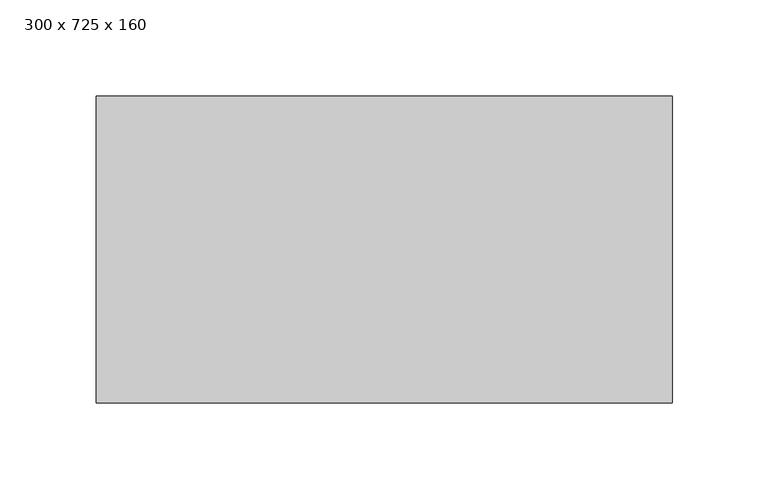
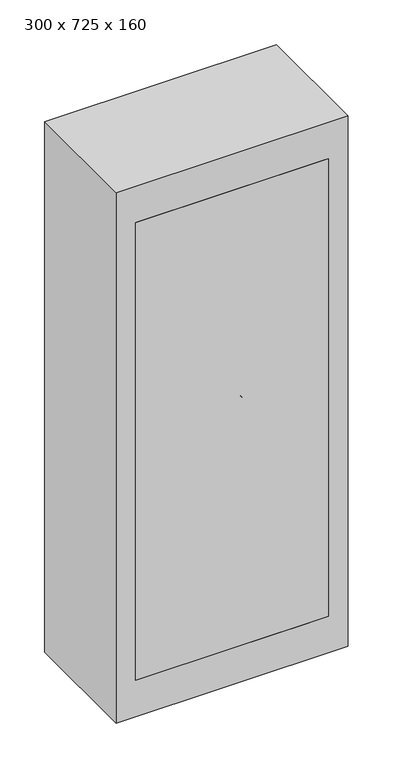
"""IFC4 building model written with IfcOpenShell, lengths in millimetres: furniture geometry, ME_UN_connection box double connection_ACO : 300 x 725 x 160."""

from ifc_helpers import new_model, si_unit, point, frame, frame_2d, origin, place, context, project, spatial, polyline, circle_curve, trimmed, segment, composite_curve, outline, extrude, source, transform, mapped, element, save
from ifc_brep_helpers import plane_surface, cylinder_surface, revolved_surface, advanced_brep


def furniture_300_x_725_x_160_cc6d1901(model_context):
    return source(origin(), model_context, "Body", "SolidModel", [
        extrude(outline(composite_curve([segment(trimmed(circle_curve(frame_2d((325.0, 0.0)), 25.0), [point((300.0, 0.0))], [point((350.0, 0.0))], False, "CARTESIAN"), True, "CONTINUOUS"), segment(trimmed(circle_curve(frame_2d((325.0, 0.0)), 25.0), [point((350.0, 0.0))], [point((300.0, 0.0))], False, "CARTESIAN"), True, "CONTINUOUS")], self_intersect=False)), frame((0.0, 148.0, 0.0), z_axis=(0.0, 1.0, 0.0), x_axis=(0.0, 0.0, 1.0)), (0.0, 0.0, 1.0), 12.0),
        advanced_brep(
        [(0.0, 148.0, 277.0), (0.0, 148.0, 373.0), (0.0, 40.0, 277.0), (0.0, 40.0, 373.0), (0.0, 118.0, 373.0), (0.0, 118.0, 277.0), (0.0, 70.0, 277.0), (0.0, 70.0, 373.0), (0.0, 118.0, 250.0), (0.0, 118.0, 400.0), (0.0, 70.0, 250.0), (0.0, 70.0, 400.0)],
        [
            (0, 1, circle_curve(frame((0.0, 148.0, 325.0), z_axis=(0.0, 1.0, 0.0), x_axis=(0.0, 0.0, 1.0)), 48.0)),
            (1, 0, circle_curve(frame((0.0, 148.0, 325.0), z_axis=(0.0, 1.0, 0.0), x_axis=(0.0, 0.0, 1.0)), 48.0)),
            (2, 3, circle_curve(frame((0.0, 40.0, 325.0), z_axis=(0.0, -1.0, 0.0), x_axis=(0.0, 0.0, 1.0)), 48.0)),
            (3, 2, circle_curve(frame((0.0, 40.0, 325.0), z_axis=(0.0, -1.0, 0.0), x_axis=(0.0, 0.0, 1.0)), 48.0)),
            (1, 4),
            (4, 5, circle_curve(frame((0.0, 118.0, 325.0), z_axis=(0.0, 1.0, 0.0), x_axis=(0.0, 0.0, 1.0)), 48.0)),
            (5, 0),
            (2, 6),
            (6, 7, circle_curve(frame((0.0, 70.0, 325.0), z_axis=(0.0, -1.0, 0.0), x_axis=(0.0, 0.0, 1.0)), 48.0)),
            (7, 3),
            (5, 4, circle_curve(frame((0.0, 118.0, 325.0), z_axis=(0.0, 1.0, 0.0), x_axis=(0.0, 0.0, 1.0)), 48.0)),
            (7, 6, circle_curve(frame((0.0, 70.0, 325.0), z_axis=(0.0, -1.0, 0.0), x_axis=(0.0, 0.0, 1.0)), 48.0)),
            (8, 9, circle_curve(frame((0.0, 118.0, 325.0), z_axis=(0.0, 1.0, 0.0), x_axis=(0.0, 0.0, 1.0)), 75.0)),
            (9, 8, circle_curve(frame((0.0, 118.0, 325.0), z_axis=(0.0, 1.0, 0.0), x_axis=(0.0, 0.0, 1.0)), 75.0)),
            (10, 11, circle_curve(frame((0.0, 70.0, 325.0), z_axis=(0.0, -1.0, 0.0), x_axis=(0.0, 0.0, 1.0)), 75.0)),
            (11, 10, circle_curve(frame((0.0, 70.0, 325.0), z_axis=(0.0, -1.0, 0.0), x_axis=(0.0, 0.0, 1.0)), 75.0)),
            (9, 11),
            (10, 8),
        ],
        [
            plane_surface(frame((0.0, 148.0, 373.0), z_axis=(0.0, 1.0, 0.0), x_axis=(1.0, 0.0, 0.0))),
            plane_surface(frame((0.0, 40.0, 373.0), z_axis=(0.0, -1.0, 0.0), x_axis=(-1.0, 0.0, 0.0))),
            cylinder_surface(frame((0.0, 148.0, 325.0), z_axis=(0.0, -1.0, 0.0), x_axis=(0.0, 0.0, 1.0)), 48.0),
            plane_surface(frame((0.0, 118.0, 400.0), z_axis=(0.0, 1.0, 0.0), x_axis=(1.0, 0.0, 0.0))),
            plane_surface(frame((0.0, 70.0, 400.0), z_axis=(0.0, -1.0, 0.0), x_axis=(-1.0, 0.0, 0.0))),
            cylinder_surface(frame((0.0, 118.0, 325.0), z_axis=(0.0, -1.0, 0.0), x_axis=(0.0, 0.0, 1.0)), 75.0),
        ],
        [
            (0, [[1, 2]]),
            (1, [[3, 4]]),
            (2, [[-2, 5, 6, 7]]),
            (2, [[-3, 8, 9, 10]]),
            (2, [[-1, -7, 11, -5]]),
            (2, [[-4, -10, 12, -8]]),
            (3, [[13, 14], [-6, -11]]),
            (4, [[15, 16], [-9, -12]]),
            (5, [[-14, 17, -15, 18]]),
            (5, [[-13, -18, -16, -17]]),
        ],
    ),
        extrude(outline(composite_curve([segment(trimmed(circle_curve(frame_2d((150.0, 0.0)), 25.0), [point((125.0, 0.0))], [point((175.0, 0.0))], False, "CARTESIAN"), True, "CONTINUOUS"), segment(trimmed(circle_curve(frame_2d((150.0, 0.0)), 25.0), [point((175.0, 0.0))], [point((125.0, 0.0))], False, "CARTESIAN"), True, "CONTINUOUS")], self_intersect=False)), frame((0.0, 148.0, 0.0), z_axis=(0.0, 1.0, 0.0), x_axis=(0.0, 0.0, 1.0)), (0.0, 0.0, 1.0), 12.0),
        advanced_brep(
        [(0.0, 148.0, 102.0), (0.0, 148.0, 198.0), (0.0, 40.0, 102.0), (0.0, 40.0, 198.0), (0.0, 118.0, 198.0), (0.0, 118.0, 102.0), (0.0, 70.0, 102.0), (0.0, 70.0, 198.0), (0.0, 118.0, 75.0), (0.0, 118.0, 225.0), (0.0, 70.0, 75.0), (0.0, 70.0, 225.0)],
        [
            (0, 1, circle_curve(frame((0.0, 148.0, 150.0), z_axis=(0.0, 1.0, 0.0), x_axis=(0.0, 0.0, 1.0)), 48.0)),
            (1, 0, circle_curve(frame((0.0, 148.0, 150.0), z_axis=(0.0, 1.0, 0.0), x_axis=(0.0, 0.0, 1.0)), 48.0)),
            (2, 3, circle_curve(frame((0.0, 40.0, 150.0), z_axis=(0.0, -1.0, 0.0), x_axis=(0.0, 0.0, 1.0)), 48.0)),
            (3, 2, circle_curve(frame((0.0, 40.0, 150.0), z_axis=(0.0, -1.0, 0.0), x_axis=(0.0, 0.0, 1.0)), 48.0)),
            (1, 4),
            (4, 5, circle_curve(frame((0.0, 118.0, 150.0), z_axis=(0.0, 1.0, 0.0), x_axis=(0.0, 0.0, 1.0)), 48.0)),
            (5, 0),
            (2, 6),
            (6, 7, circle_curve(frame((0.0, 70.0, 150.0), z_axis=(0.0, -1.0, 0.0), x_axis=(0.0, 0.0, 1.0)), 48.0)),
            (7, 3),
            (5, 4, circle_curve(frame((0.0, 118.0, 150.0), z_axis=(0.0, 1.0, 0.0), x_axis=(0.0, 0.0, 1.0)), 48.0)),
            (7, 6, circle_curve(frame((0.0, 70.0, 150.0), z_axis=(0.0, -1.0, 0.0), x_axis=(0.0, 0.0, 1.0)), 48.0)),
            (8, 9, circle_curve(frame((0.0, 118.0, 150.0), z_axis=(0.0, 1.0, 0.0), x_axis=(0.0, 0.0, 1.0)), 75.0)),
            (9, 8, circle_curve(frame((0.0, 118.0, 150.0), z_axis=(0.0, 1.0, 0.0), x_axis=(0.0, 0.0, 1.0)), 75.0)),
            (10, 11, circle_curve(frame((0.0, 70.0, 150.0), z_axis=(0.0, -1.0, 0.0), x_axis=(0.0, 0.0, 1.0)), 75.0)),
            (11, 10, circle_curve(frame((0.0, 70.0, 150.0), z_axis=(0.0, -1.0, 0.0), x_axis=(0.0, 0.0, 1.0)), 75.0)),
            (9, 11),
            (10, 8),
        ],
        [
            plane_surface(frame((0.0, 148.0, 198.0), z_axis=(0.0, 1.0, 0.0), x_axis=(1.0, 0.0, 0.0))),
            plane_surface(frame((0.0, 40.0, 198.0), z_axis=(0.0, -1.0, 0.0), x_axis=(-1.0, 0.0, 0.0))),
            cylinder_surface(frame((0.0, 148.0, 150.0), z_axis=(0.0, -1.0, 0.0), x_axis=(0.0, 0.0, 1.0)), 48.0),
            plane_surface(frame((0.0, 118.0, 225.0), z_axis=(0.0, 1.0, 0.0), x_axis=(1.0, 0.0, 0.0))),
            plane_surface(frame((0.0, 70.0, 225.0), z_axis=(0.0, -1.0, 0.0), x_axis=(-1.0, 0.0, 0.0))),
            cylinder_surface(frame((0.0, 118.0, 150.0), z_axis=(0.0, -1.0, 0.0), x_axis=(0.0, 0.0, 1.0)), 75.0),
        ],
        [
            (0, [[1, 2]]),
            (1, [[3, 4]]),
            (2, [[-2, 5, 6, 7]]),
            (2, [[-3, 8, 9, 10]]),
            (2, [[-1, -7, 11, -5]]),
            (2, [[-4, -10, 12, -8]]),
            (3, [[13, 14], [-6, -11]]),
            (4, [[15, 16], [-9, -12]]),
            (5, [[-14, 17, -15, 18]]),
            (5, [[-13, -18, -16, -17]]),
        ],
    ),
        extrude(outline(polyline([(124.5, 0.0), (-124.5, 0.0), (-124.5, 50.0), (124.5, 50.0), (124.5, 0.0)])), frame((0.0, 0.0, 50.0), z_axis=(0.0, 0.0, 1.0), x_axis=(1.0, 0.0, 0.0)), (0.0, 0.0, 1.0), 625.0),
        advanced_brep(
        [(150.0, 160.0, 725.0), (-150.0, 160.0, 725.0), (-150.0, 0.0, 725.0), (150.0, 0.0, 725.0), (150.0, 160.0, 0.0), (150.0, 0.0, 0.0), (-150.0, 0.0, 0.0), (-150.0, 160.0, 0.0), (-40.0, 160.0, 150.0), (40.0, 160.0, 150.0), (-40.0, 160.0, 325.0), (40.0, 160.0, 325.0), (-100.0, 0.0, 675.0), (100.0, 0.0, 675.0), (100.0, 0.0, 50.0), (-100.0, 0.0, 50.0), (148.0, 158.0, 675.0), (148.0, 2.0, 675.0), (100.0, 2.0, 675.0), (-100.0, 2.0, 675.0), (-148.0, 2.0, 675.0), (-148.0, 158.0, 675.0), (148.0, 158.0, 50.0), (-148.0, 158.0, 50.0), (-148.0, 2.0, 50.0), (-100.0, 2.0, 50.0), (100.0, 2.0, 50.0), (148.0, 2.0, 50.0), (40.0, 158.0, 150.0), (-40.0, 158.0, 150.0), (40.0, 158.0, 325.0), (-40.0, 158.0, 325.0)],
        [
            (0, 1),
            (1, 2),
            (2, 3),
            (3, 0),
            (4, 5),
            (5, 6),
            (6, 7),
            (7, 4),
            (0, 4),
            (7, 1),
            (8, 9, circle_curve(frame((0.0, 160.0, 150.0), z_axis=(0.0, -1.0, 0.0), x_axis=(1.0, 0.0, 0.0)), 40.0)),
            (9, 8, circle_curve(frame((0.0, 160.0, 150.0), z_axis=(0.0, -1.0, 0.0), x_axis=(1.0, 0.0, 0.0)), 40.0)),
            (10, 11, circle_curve(frame((0.0, 160.0, 325.0), z_axis=(0.0, -1.0, 0.0), x_axis=(1.0, 0.0, 0.0)), 40.0)),
            (11, 10, circle_curve(frame((0.0, 160.0, 325.0), z_axis=(0.0, -1.0, 0.0), x_axis=(1.0, 0.0, 0.0)), 40.0)),
            (6, 2),
            (5, 3),
            (12, 13),
            (13, 14),
            (14, 15),
            (15, 12),
            (16, 17),
            (17, 18),
            (18, 13),
            (12, 19),
            (19, 20),
            (20, 21),
            (21, 16),
            (22, 23),
            (23, 24),
            (24, 25),
            (25, 15),
            (14, 26),
            (26, 27),
            (27, 22),
            (21, 23),
            (22, 16),
            (28, 29, circle_curve(frame((0.0, 158.0, 150.0), z_axis=(0.0, 1.0, 0.0), x_axis=(1.0, 0.0, 0.0)), 40.0)),
            (29, 28, circle_curve(frame((0.0, 158.0, 150.0), z_axis=(0.0, 1.0, 0.0), x_axis=(1.0, 0.0, 0.0)), 40.0)),
            (30, 31, circle_curve(frame((0.0, 158.0, 325.0), z_axis=(0.0, 1.0, 0.0), x_axis=(1.0, 0.0, 0.0)), 40.0)),
            (31, 30, circle_curve(frame((0.0, 158.0, 325.0), z_axis=(0.0, 1.0, 0.0), x_axis=(1.0, 0.0, 0.0)), 40.0)),
            (27, 17),
            (20, 24),
            (19, 25),
            (18, 26),
            (28, 9),
            (8, 29),
            (30, 11),
            (10, 31),
        ],
        [
            plane_surface(frame((-150.0, 160.0, 725.0), z_axis=(0.0, 0.0, 1.0), x_axis=(-1.0, 0.0, 0.0))),
            plane_surface(frame((-150.0, 160.0, 0.0), z_axis=(0.0, 0.0, -1.0), x_axis=(1.0, 0.0, 0.0))),
            plane_surface(frame((150.0, 160.0, 725.0), z_axis=(0.0, 1.0, 0.0), x_axis=(0.0, 0.0, -1.0))),
            plane_surface(frame((-150.0, 160.0, 725.0), z_axis=(-1.0, 0.0, 0.0), x_axis=(0.0, 0.0, -1.0))),
            plane_surface(frame((-150.0, 0.0, 725.0), z_axis=(0.0, -1.0, 0.0), x_axis=(0.0, 0.0, -1.0))),
            plane_surface(frame((150.0, 0.0, 725.0), z_axis=(1.0, 0.0, 0.0), x_axis=(0.0, 0.0, -1.0))),
            plane_surface(frame((-148.0, 158.0, 675.0), z_axis=(0.0, 0.0, -1.0), x_axis=(-1.0, 0.0, 0.0))),
            plane_surface(frame((-148.0, 158.0, 50.0), z_axis=(0.0, 0.0, 1.0), x_axis=(1.0, 0.0, 0.0))),
            plane_surface(frame((148.0, 158.0, 675.0), z_axis=(0.0, -1.0, 0.0), x_axis=(0.0, 0.0, -1.0))),
            plane_surface(frame((148.0, 2.0, 675.0), z_axis=(-1.0, 0.0, 0.0), x_axis=(0.0, 0.0, -1.0))),
            plane_surface(frame((-148.0, 158.0, 675.0), z_axis=(1.0, 0.0, 0.0), x_axis=(0.0, 0.0, -1.0))),
            plane_surface(frame((-148.0, 2.0, 675.0), z_axis=(0.0, 1.0, 0.0), x_axis=(0.0, 0.0, -1.0))),
            plane_surface(frame((-100.0, 2.0, 675.0), z_axis=(1.0, 0.0, 0.0), x_axis=(0.0, 0.0, -1.0))),
            plane_surface(frame((100.0, 0.0, 675.0), z_axis=(-1.0, 0.0, 0.0), x_axis=(0.0, 0.0, -1.0))),
            plane_surface(frame((100.0, 2.0, 675.0), z_axis=(0.0, 1.0, 0.0), x_axis=(0.0, 0.0, -1.0))),
            revolved_surface(polyline([(40.0, 158.0, 150.0), (40.0, 160.0, 150.0)]), (0.0, 160.0, 150.0), (0.0, -1.0, 0.0)),
            revolved_surface(polyline([(40.0, 158.0, 325.0), (40.0, 160.0, 325.0)]), (0.0, 160.0, 325.0), (0.0, -1.0, 0.0)),
        ],
        [
            (0, [[1, 2, 3, 4]]),
            (1, [[5, 6, 7, 8]]),
            (2, [[-1, 9, -8, 10], [11, 12], [13, 14]]),
            (3, [[-2, -10, -7, 15]]),
            (4, [[-3, -15, -6, 16], [17, 18, 19, 20]]),
            (5, [[-4, -16, -5, -9]]),
            (6, [[21, 22, 23, -17, 24, 25, 26, 27]]),
            (7, [[28, 29, 30, 31, -19, 32, 33, 34]]),
            (8, [[-27, 35, -28, 36], [37, 38], [39, 40]]),
            (9, [[-21, -36, -34, 41]]),
            (10, [[-26, 42, -29, -35]]),
            (11, [[-25, 43, -30, -42]]),
            (12, [[-24, -20, -31, -43]]),
            (13, [[-23, 44, -32, -18]]),
            (14, [[-22, -41, -33, -44]]),
            (15, [[45, -11, 46, -37]]),
            (15, [[-45, -38, -46, -12]]),
            (16, [[47, -13, 48, -39]]),
            (16, [[-47, -40, -48, -14]]),
        ],
    ),
    ])


if __name__ == "__main__":
    model = new_model("IFC4")
    model_context = context("Model", 3, world=origin())
    ifc_project = project(units=[si_unit("LENGTHUNIT", "METRE", prefix="MILLI")], contexts=[model_context])
    site = spatial("IfcSite", under=ifc_project)
    building = spatial("IfcBuilding", under=site)
    placement = place(None, origin())
    furniture_300_x_725_x_160_shape = furniture_300_x_725_x_160_cc6d1901(model_context)
    element("IfcFurniture", 1, ObjectType="ME_UN_connection box double connection_ACO : 300 x 725 x 160", at=placement, inside=building, context=model_context, shape_type="MappedRepresentation", body=[
        mapped(furniture_300_x_725_x_160_shape, transform((0.0, 0.0, 0.0), x_axis=(1.0, 0.0, 0.0), y_axis=(0.0, 1.0, 0.0), z_axis=(0.0, 0.0, 1.0))),
    ])
    save(model, "model.ifc")
